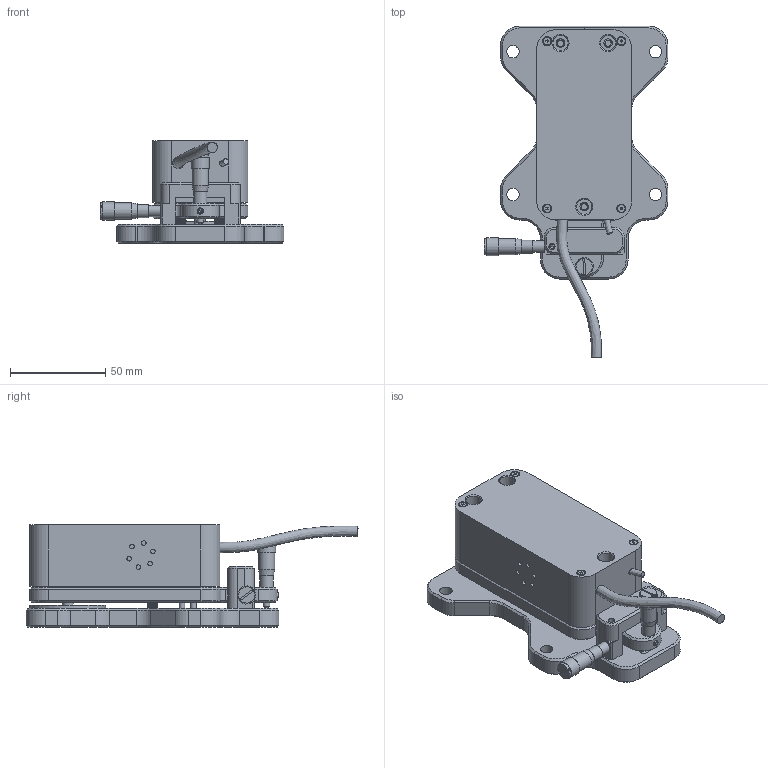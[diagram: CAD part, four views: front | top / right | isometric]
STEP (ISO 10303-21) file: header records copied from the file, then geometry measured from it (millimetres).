
FILE_DESCRIPTION(/* description */ (''),/* implementation_level */ '2;1');
FILE_NAME(/* name */ 'D:\Tresor\Designs\276 SPng Interferometer\000-Variantenpräsentation\SP-NG.stp',/* time_stamp */ '2017-07-05T13:10:44+02:00',/* author */ ('Uwe Bartsch'),/* organization */ (''),/* preprocessor_version */ 'ST-DEVELOPER v16.5',/* originating_system */ 'Autodesk Inventor 2017',/* authorisation */ '');
FILE_SCHEMA (('AUTOMOTIVE_DESIGN { 1 0 10303 214 3 1 1 }'));
Length unit declared in the file: millimetre
Products named in the file (26): SP-NG; 276-161-000-005; Zugfeder 0.7 X 5 X 13.5 X; Zugfeder 0.7 X 5 X 13.5 I; Einbaumessschraube E BR 452 MB 0-7; Kugel_R_3_A020613; Tellerfeder_A15_A025395; ISO 4035 - M5 A2; ISO 2338 - 2 m6 x 14 - A A2; ISO 4027 - M4 x 6 A2; ISO 4026 - M3 x 3 Edelstahl, 440C; DIN 6797 - A 5,3 A2; DIN 6885 - A 3 x 3 x 10; DIN 6885 - A 3 x 3 x 6; ISO 4762 - M5 x 12 A2; 314-151-005-033; 276-161-001-005; 276-161-002-005; 276-161-003-005; 276-151-004-033; 314-151-003-020; 314-151-004-020; 270-161-005-034; 270-161-004-034; 276-102-200-005; 276-102-200-005_Substitute_2
Assembly tree (36 placements, depth 3):
  SP-NG
    276-161-000-005
      Zugfeder 0.7 X 5 X 13.5 X  x2
      Zugfeder 0.7 X 5 X 13.5 I  x2
      Einbaumessschraube E BR 452 MB 0-7  x2
      Kugel_R_3_A020613  x5
      Tellerfeder_A15_A025395
      ISO 4035 - M5 A2
      ISO 2338 - 2 m6 x 14 - A A2  x4
      ISO 4027 - M4 x 6 A2
      ISO 4026 - M3 x 3 Edelstahl, 440C
      DIN 6797 - A 5,3 A2
      DIN 6885 - A 3 x 3 x 10
      DIN 6885 - A 3 x 3 x 6
      ISO 4762 - M5 x 12 A2
      314-151-005-033
      276-161-001-005
      276-161-002-005
      276-161-003-005
      276-151-004-033
      314-151-003-020
      314-151-004-020
      270-161-005-034
      270-161-004-034  x2
    276-102-200-005
      276-102-200-005_Substitute_2
Bounding box: 96.7 x 174.56 x 53.97 mm (x, y, z)
Volume: 287054.8 mm3; surface area: 75777.1 mm2
Topology: 34 solids, 34 shells, 718 faces, 1709 edges, 1099 vertices
Faces by surface type: plane 344, cylinder 207, cone 126, sphere 17, torus 14, bspline 10
Full cylindrical faces by diameter (mm): 0.7 x16, 2 x6, 2.4 x12, 3 x12, 3.242 x5, 3.5 x2, 4 x10, 4.134 x3, 4.5 x3, 5 x3, 5.2 x1, 5.3 x1, 5.5 x2, 6 x8, 6.5 x4, 7 x6, 8 x7, 8.1 x3, 8.5 x5, 9.5 x2, 10 x2, 14 x2, 15 x1, 17 x1, 19 x2, 20 x1, 24 x1, 40 x1, 41 x1
Entity records: 29107 total; most frequent: CARTESIAN_POINT 13696, DIRECTION 3102, ORIENTED_EDGE 2582, EDGE_CURVE 1291, AXIS2_PLACEMENT_3D 1213, EDGE_LOOP 937, VERTEX_POINT 912, LINE 676
